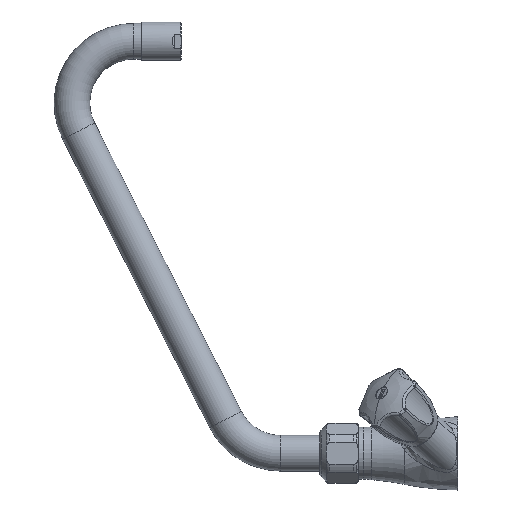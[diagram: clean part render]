
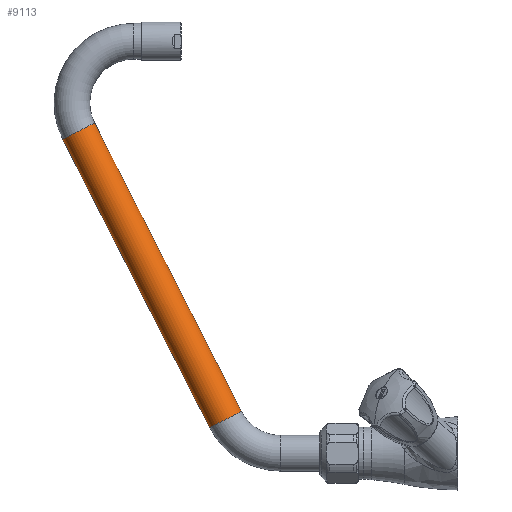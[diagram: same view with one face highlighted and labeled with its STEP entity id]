
A CAD part, left-side view. The second image highlights one B-rep face of the part: STEP entity #9113.
In plain terms, the highlighted cylindrical face has radius 13 mm (diameter 26 mm), a partial arc.
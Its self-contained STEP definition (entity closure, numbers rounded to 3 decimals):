
#1765=CARTESIAN_POINT('',(0.,184.095,
24.57));
#1766=DIRECTION('',(0.,0.454,0.891));
#1767=DIRECTION('',(0.,0.891,-0.454));
#1768=AXIS2_PLACEMENT_3D('',#1765,#1766,#1767);
#1770=DIRECTION('',(0.,0.454,0.891));
#1771=VECTOR('',#1770,235.7);
#1772=CARTESIAN_POINT('',(0.,195.678,
18.669));
#1773=LINE('',#1772,#1771);
#1779=DIRECTION('',(0.,0.454,0.891));
#1780=VECTOR('',#1779,235.7);
#1781=CARTESIAN_POINT('',(0.,172.512,
30.472));
#1782=LINE('',#1781,#1780);
#1793=CARTESIAN_POINT('',(0.,291.101,
234.581));
#1794=DIRECTION('',(0.,0.454,0.891));
#1795=DIRECTION('',(0.,0.891,-0.454));
#1796=AXIS2_PLACEMENT_3D('',#1793,#1794,#1795);
#6248=CARTESIAN_POINT('',(0.,195.678,
18.669));
#6249=CARTESIAN_POINT('',(0.,172.512,
30.472));
#6250=VERTEX_POINT('',#6248);
#6251=VERTEX_POINT('',#6249);
#6252=CARTESIAN_POINT('',(0.,302.684,
228.679));
#6253=CARTESIAN_POINT('',(0.,279.518,
240.483));
#6254=VERTEX_POINT('',#6252);
#6255=VERTEX_POINT('',#6253);
#9099=CARTESIAN_POINT('',(0.,184.095,
24.57));
#9100=DIRECTION('',(0.,0.454,0.891));
#9101=DIRECTION('',(0.,0.891,-0.454));
#9102=AXIS2_PLACEMENT_3D('',#9099,#9100,#9101);
#9103=CYLINDRICAL_SURFACE('',#9102,13.);
#9104=ORIENTED_EDGE('',*,*,#9081,.F.);
#9106=ORIENTED_EDGE('',*,*,#9105,.T.);
#9108=ORIENTED_EDGE('',*,*,#9107,.T.);
#9110=ORIENTED_EDGE('',*,*,#9109,.F.);
#9111=EDGE_LOOP('',(#9104,#9106,#9108,#9110));
#9112=FACE_OUTER_BOUND('',#9111,.F.);
#1769=CIRCLE('',#1768,13.);
#1797=CIRCLE('',#1796,13.);
#9081=EDGE_CURVE('',#6250,#6251,#1769,.T.);
#9105=EDGE_CURVE('',#6250,#6254,#1773,.T.);
#9107=EDGE_CURVE('',#6254,#6255,#1797,.T.);
#9109=EDGE_CURVE('',#6251,#6255,#1782,.T.);
#9113=ADVANCED_FACE('',(#9112),#9103,.T.);
